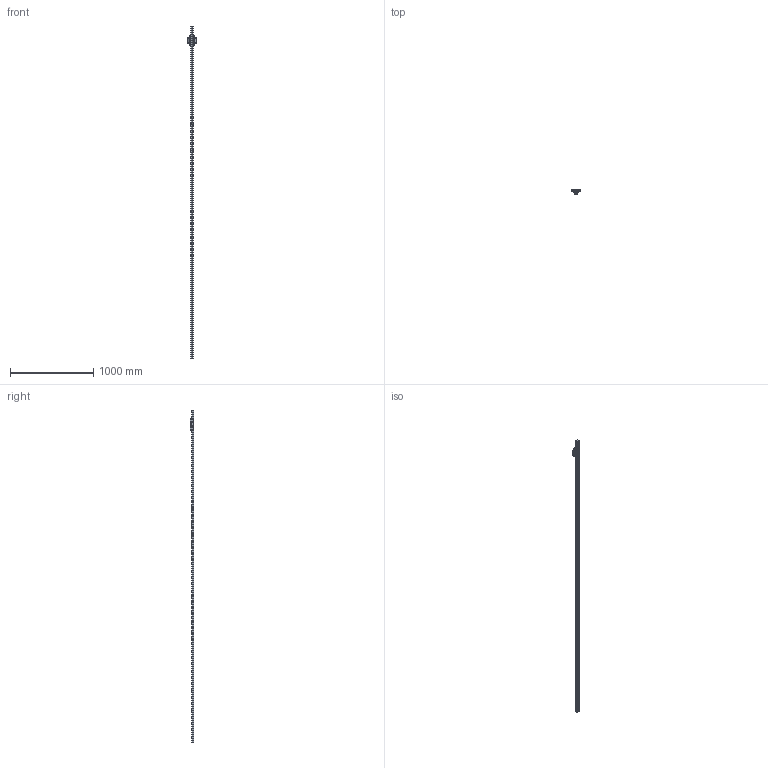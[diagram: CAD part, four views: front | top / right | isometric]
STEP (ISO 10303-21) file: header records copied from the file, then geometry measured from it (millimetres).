
FILE_DESCRIPTION((''),'2;1');
FILE_NAME('BRS35-A0_CUSTOMER_ASM_ASM','2020-11-23T15:00:46',('TWVS2025'),(''),'CREO PARAMETRIC BY PTC INC, 2018420','CREO PARAMETRIC BY PTC INC, 2018420','');
FILE_SCHEMA(('CONFIG_CONTROL_DESIGN'));
Products named in the file (11): BRR35_CUSTOMER_1; BC-BRC35-A0_ASM_1_1; BC-BRC35-A0_ASM_1_2; BC-BRC35-A0_ASM_1_3; BC-BRC35-A0_ASM_1_4; BC-BRC35-A0_ASM_1_5; BC-BRC35-A0_ASM_1_6; BC-BRC35-A0_ASM_1_7; BC-BRC35-A0_ASM_1_ASM; BRS35-A0_CUSTOMER_ASM_1_ASM; BRS35-A0_CUSTOMER_ASM_ASM
Assembly tree (10 placements, depth 4):
  BRS35-A0_CUSTOMER_ASM_ASM
    BRS35-A0_CUSTOMER_ASM_1_ASM
      BRR35_CUSTOMER_1
      BC-BRC35-A0_ASM_1_ASM
        BC-BRC35-A0_ASM_1_1
        BC-BRC35-A0_ASM_1_2
        BC-BRC35-A0_ASM_1_3
        BC-BRC35-A0_ASM_1_4
        BC-BRC35-A0_ASM_1_5
        BC-BRC35-A0_ASM_1_6
        BC-BRC35-A0_ASM_1_7
Bounding box: 99.95 x 48 x 4000 mm (x, y, z)
Volume: 3600093.6 mm3; surface area: 640616.6 mm2
Topology: 9 solids, 16 shells, 1735 faces, 5022 edges, 3312 vertices
Faces by surface type: plane 716, cylinder 644, sphere 219, bspline 82, cone 44, torus 28, revolution 2
Entity records: 69353 total; most frequent: CARTESIAN_POINT 23737, ORIENTED_EDGE 9812, DIRECTION 9269, EDGE_CURVE 4906, AXIS2_PLACEMENT_3D 3505, VERTEX_POINT 3311, VECTOR 2257, LINE 2257
